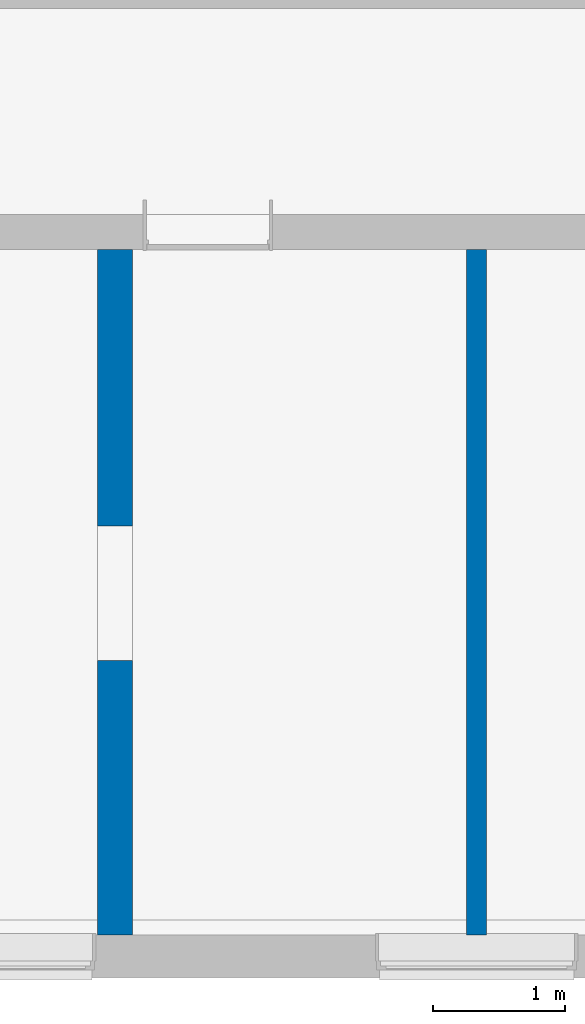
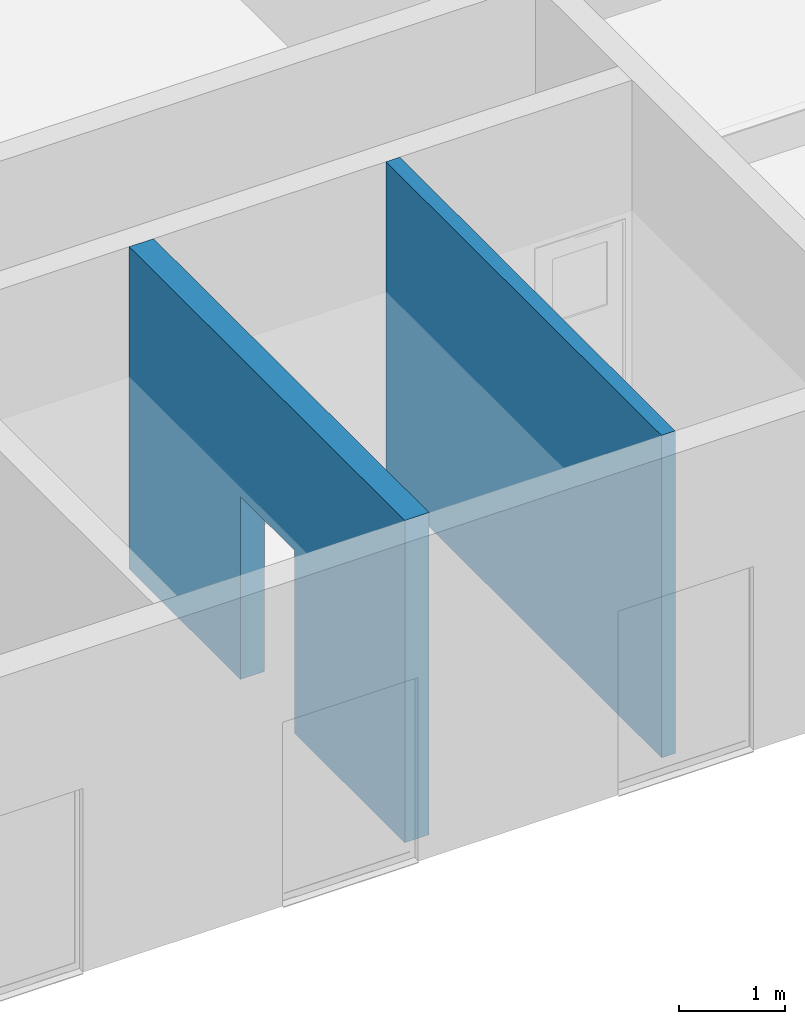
# One storey, part 11 of 15: 2 walls, 1 opening.
"""IFC4X3 building model written with IfcOpenShell, lengths in millimetres."""

from ifc_helpers import new_model, entity, si_unit, converted_unit, derived_unit, direction, frame, frame_2d, origin, place, context, subcontext, project, spatial, rectangle, extrude, material, layer, layer_set, type_object, element, save


model = new_model("IFC4X3")

# Units and contexts
model_context = context("Model", 3, precision=0.01, world=origin(), true_north=direction((6.12303176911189e-17, 1.0)))
body_context = subcontext(model_context, "Body", "Model", "MODEL_VIEW")
ifc_project = project(units=[si_unit("LENGTHUNIT", "METRE", prefix="MILLI"), si_unit("AREAUNIT", "SQUARE_METRE"), si_unit("VOLUMEUNIT", "CUBIC_METRE"), converted_unit("PLANEANGLEUNIT", "DEGREE", entity("IfcPlaneAngleMeasure", 0.0174532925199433), si_unit("PLANEANGLEUNIT", "RADIAN"), dimensions=[0, 0, 0, 0, 0, 0, 0]), si_unit("MASSUNIT", "GRAM", prefix="KILO"), derived_unit("MASSDENSITYUNIT", [(si_unit("MASSUNIT", "GRAM", prefix="KILO"), 1), (si_unit("LENGTHUNIT", "METRE"), -3)]), derived_unit("IONCONCENTRATIONUNIT", [(si_unit("MASSUNIT", "GRAM", prefix="KILO"), 1), (si_unit("LENGTHUNIT", "METRE"), -3)]), derived_unit("MOMENTOFINERTIAUNIT", [(si_unit("LENGTHUNIT", "METRE"), 4)]), si_unit("TIMEUNIT", "SECOND"), si_unit("FREQUENCYUNIT", "HERTZ"), si_unit("THERMODYNAMICTEMPERATUREUNIT", "DEGREE_CELSIUS"), derived_unit("THERMALTRANSMITTANCEUNIT", [(si_unit("MASSUNIT", "GRAM", prefix="KILO"), 1), (si_unit("THERMODYNAMICTEMPERATUREUNIT", "KELVIN"), -1), (si_unit("TIMEUNIT", "SECOND"), -3)]), derived_unit("THERMALCONDUCTANCEUNIT", [(si_unit("MASSUNIT", "GRAM", prefix="KILO"), 1), (si_unit("THERMODYNAMICTEMPERATUREUNIT", "KELVIN"), -1), (si_unit("TIMEUNIT", "SECOND"), -3), (si_unit("LENGTHUNIT", "METRE"), 1)]), derived_unit("VOLUMETRICFLOWRATEUNIT", [(si_unit("LENGTHUNIT", "METRE", prefix="DECI"), 3), (si_unit("TIMEUNIT", "SECOND"), -1)]), derived_unit("MASSFLOWRATEUNIT", [(si_unit("MASSUNIT", "GRAM", prefix="KILO"), 1), (si_unit("TIMEUNIT", "SECOND"), -1)]), derived_unit("ROTATIONALFREQUENCYUNIT", [(si_unit("TIMEUNIT", "SECOND"), -1)]), si_unit("ELECTRICCURRENTUNIT", "AMPERE"), si_unit("ELECTRICVOLTAGEUNIT", "VOLT"), si_unit("POWERUNIT", "WATT"), si_unit("FORCEUNIT", "NEWTON", prefix="KILO"), si_unit("ILLUMINANCEUNIT", "LUX"), si_unit("LUMINOUSFLUXUNIT", "LUMEN"), si_unit("LUMINOUSINTENSITYUNIT", "CANDELA"), si_unit("ENERGYUNIT", "JOULE"), derived_unit("USERDEFINED", [(si_unit("MASSUNIT", "GRAM", prefix="KILO"), -1), (si_unit("LENGTHUNIT", "METRE"), -2), (si_unit("TIMEUNIT", "SECOND"), 3), (si_unit("LUMINOUSFLUXUNIT", "LUMEN"), 1)]), derived_unit("USERDEFINED", [(si_unit("MASSUNIT", "GRAM", prefix="KILO"), 1), (si_unit("TIMEUNIT", "SECOND"), -3), (si_unit("LENGTHUNIT", "METRE"), 3), (si_unit("ELECTRICCURRENTUNIT", "AMPERE"), -2)]), derived_unit("SOUNDPOWERUNIT", [(si_unit("MASSUNIT", "GRAM", prefix="KILO"), 1), (si_unit("TIMEUNIT", "SECOND"), -3), (si_unit("LENGTHUNIT", "METRE"), 2)]), derived_unit("SOUNDPRESSUREUNIT", [(si_unit("MASSUNIT", "GRAM", prefix="KILO"), 1), (si_unit("LENGTHUNIT", "METRE"), -1), (si_unit("TIMEUNIT", "SECOND"), -2)]), derived_unit("LINEARVELOCITYUNIT", [(si_unit("LENGTHUNIT", "METRE"), 1), (si_unit("TIMEUNIT", "SECOND"), -1)]), si_unit("PRESSUREUNIT", "PASCAL"), derived_unit("USERDEFINED", [(si_unit("MASSUNIT", "GRAM", prefix="KILO"), 1), (si_unit("LENGTHUNIT", "METRE"), -2), (si_unit("TIMEUNIT", "SECOND"), -2)]), derived_unit("LINEARFORCEUNIT", [(si_unit("MASSUNIT", "GRAM", prefix="KILO"), 1), (si_unit("TIMEUNIT", "SECOND"), -2)]), derived_unit("PLANARFORCEUNIT", [(si_unit("MASSUNIT", "GRAM", prefix="KILO"), 1), (si_unit("LENGTHUNIT", "METRE"), -1), (si_unit("TIMEUNIT", "SECOND"), -2)]), derived_unit("SPECIFICHEATCAPACITYUNIT", [(si_unit("THERMODYNAMICTEMPERATUREUNIT", "KELVIN"), -1), (si_unit("LENGTHUNIT", "METRE"), 2), (si_unit("TIMEUNIT", "SECOND"), -2)]), derived_unit("HEATFLUXDENSITYUNIT", [(si_unit("MASSUNIT", "GRAM", prefix="KILO"), 1), (si_unit("TIMEUNIT", "SECOND"), -3)]), derived_unit("HEATINGVALUEUNIT", [(si_unit("LENGTHUNIT", "METRE"), 2), (si_unit("TIMEUNIT", "SECOND"), -2)]), derived_unit("VAPORPERMEABILITYUNIT", [(si_unit("LENGTHUNIT", "METRE"), -1), (si_unit("TIMEUNIT", "SECOND"), 1)]), derived_unit("DYNAMICVISCOSITYUNIT", [(si_unit("MASSUNIT", "GRAM", prefix="KILO"), 1), (si_unit("TIMEUNIT", "SECOND"), -1), (si_unit("LENGTHUNIT", "METRE"), -1)]), derived_unit("THERMALEXPANSIONCOEFFICIENTUNIT", [(si_unit("THERMODYNAMICTEMPERATUREUNIT", "KELVIN"), -1)]), derived_unit("MODULUSOFELASTICITYUNIT", [(si_unit("MASSUNIT", "GRAM", prefix="KILO"), 1), (si_unit("LENGTHUNIT", "METRE"), -1), (si_unit("TIMEUNIT", "SECOND"), -2)]), derived_unit("ISOTHERMALMOISTURECAPACITYUNIT", [(si_unit("MASSUNIT", "GRAM", prefix="KILO"), -1), (si_unit("LENGTHUNIT", "METRE"), 3)]), derived_unit("MOISTUREDIFFUSIVITYUNIT", [(si_unit("TIMEUNIT", "SECOND"), -1), (si_unit("LENGTHUNIT", "METRE"), 2)]), derived_unit("AREADENSITYUNIT", [(si_unit("MASSUNIT", "GRAM", prefix="KILO"), 1), (si_unit("LENGTHUNIT", "METRE"), 2)]), derived_unit("MASSPERLENGTHUNIT", [(si_unit("MASSUNIT", "GRAM", prefix="KILO"), 1), (si_unit("LENGTHUNIT", "METRE"), -1)]), derived_unit("THERMALRESISTANCEUNIT", [(si_unit("MASSUNIT", "GRAM", prefix="KILO"), -1), (si_unit("TIMEUNIT", "SECOND"), 3), (si_unit("THERMODYNAMICTEMPERATUREUNIT", "KELVIN"), 1)]), derived_unit("ACCELERATIONUNIT", [(si_unit("LENGTHUNIT", "METRE"), 1), (si_unit("TIMEUNIT", "SECOND"), -2)]), derived_unit("ANGULARVELOCITYUNIT", [(si_unit("TIMEUNIT", "SECOND"), -1), (si_unit("PLANEANGLEUNIT", "RADIAN"), 1)]), derived_unit("LINEARSTIFFNESSUNIT", [(si_unit("MASSUNIT", "GRAM", prefix="KILO"), 1), (si_unit("TIMEUNIT", "SECOND"), -2)]), derived_unit("WARPINGCONSTANTUNIT", [(si_unit("LENGTHUNIT", "METRE"), 6)]), derived_unit("LINEARMOMENTUNIT", [(si_unit("MASSUNIT", "GRAM", prefix="KILO"), 1), (si_unit("LENGTHUNIT", "METRE"), 1), (si_unit("TIMEUNIT", "SECOND"), -2)]), derived_unit("TORQUEUNIT", [(si_unit("MASSUNIT", "GRAM", prefix="KILO"), 1), (si_unit("LENGTHUNIT", "METRE"), 2), (si_unit("TIMEUNIT", "SECOND"), -2)])], contexts=[model_context])

# Site, building, storey
site_placement = place(None, origin())
site = spatial("IfcSite", under=ifc_project, at=site_placement, Name="Default", CompositionType="ELEMENT")
building_placement = place(site_placement, origin())
building = spatial("IfcBuilding", under=site, at=building_placement, Name="事務所ビル", CompositionType="ELEMENT")
storey_placement = place(building_placement, frame((0.0, 0.0, 4300.0)))
storey = spatial("IfcBuildingStorey", under=building, at=storey_placement, Name="2FL", CompositionType="ELEMENT", Elevation=4300.0)

# Wall, opening
ifc_material_1 = material(Name="せっこうボード", Category="一般")
ifc_layer_1 = layer(ifc_material_1, 15.0, Name="せっこうボード", Category="一般")
ifc_material_2 = material(Name="合板", Category="一般")
ifc_layer_2 = layer(ifc_material_2, 12.0, Name="合板", Category="一般")
ifc_material_3 = material(Name="天然木材", Category="一般")
ifc_layer_3 = layer(ifc_material_3, 210.0, Name="天然木材", Category="一般")
ifc_layer_4 = layer(ifc_material_2, 12.0, Name="合板", Category="一般")
ifc_layer_5 = layer(ifc_material_1, 15.0, Name="せっこうボード", Category="一般")
ifc_layer_set_1 = layer_set([ifc_layer_1, ifc_layer_2, ifc_layer_3, ifc_layer_4, ifc_layer_5], Name="標準壁:GB-R15_構造用合板12_木210_構造用合板12_GB-R15")
wall_type_1 = type_object("IfcWallType", Name="標準壁:GB-R15_構造用合板12_木210_構造用合板12_GB-R15", PredefinedType="STANDARD", material=ifc_layer_set_1)
wall_1_placement = place(storey_placement, frame((32760.0, 147.0, 0.0), z_axis=(0.0, 0.0, 1.0), x_axis=(0.0, 1.0, 0.0)))
wall_1 = element("IfcWall", 1, at=wall_1_placement, inside=storey, type_object=wall_type_1, material=ifc_layer_set_1, Name="標準壁:GB-R15_構造用合板12_木210_構造用合板12_GB-R15", ObjectType="標準壁:GB-R15_構造用合板12_木210_構造用合板12_GB-R15", PredefinedType="NOTDEFINED", context=body_context, shape_type="SweptSolid", body=[
    extrude(rectangle(XDim=5181.00000000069, YDim=264.000000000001, at=frame_2d((2590.50000000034, -2.1316282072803e-13), x_axis=(-1.0, 0.0))), origin(), (0.0, 0.0, 1.0), 3700.0),
])
opening_placement = place(wall_1_placement, frame((2074.49999999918, -132.0, 0.0)))
element("IfcOpeningElement", 2, at=opening_placement, cuts=wall_1, Name="ドア-開口部:1017 x 2100mm:1", PredefinedType="OPENING", context=body_context, shape_type="SweptSolid", body=[
    extrude(rectangle(XDim=2100.0, YDim=1017.0, at=frame_2d((1050.0, 508.5), x_axis=(-1.0, 0.0))), frame((0.0, 0.0, 0.0), z_axis=(0.0, 1.0, 0.0), x_axis=(0.0, 0.0, 1.0)), (0.0, 0.0, 1.0), 264.0),
])

# Wall
ifc_material_4 = material(Name="<Unnamed>")
ifc_layer_6 = layer(ifc_material_4, 15.0, Name="Layer")
ifc_layer_7 = layer(ifc_material_3, 120.0, Name="天然木材", Category="一般")
ifc_layer_8 = layer(ifc_material_4, 15.0, Name="Layer")
ifc_layer_set_2 = layer_set([ifc_layer_6, ifc_layer_7, ifc_layer_8], Name="標準壁:GB-R15_木120_GB-R15")
wall_type_2 = type_object("IfcWallType", Name="標準壁:GB-R15_木120_GB-R15", PredefinedType="STANDARD", material=ifc_layer_set_2)
wall_2_placement = place(storey_placement, frame((35490.0, 147.0, 0.0), z_axis=(0.0, 0.0, 1.0), x_axis=(0.0, 1.0, 0.0)))
element("IfcWall", 3, at=wall_2_placement, inside=storey, type_object=wall_type_2, material=ifc_layer_set_2, Name="標準壁:GB-R15_木120_GB-R15", ObjectType="標準壁:GB-R15_木120_GB-R15", PredefinedType="NOTDEFINED", context=body_context, shape_type="SweptSolid", body=[
    extrude(rectangle(XDim=5181.0000000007, YDim=150.000000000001, at=frame_2d((2590.50000000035, -2.06057393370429e-13), x_axis=(-1.0, 0.0))), origin(), (0.0, 0.0, 1.0), 3700.0),
])

save(model, "model.ifc")
